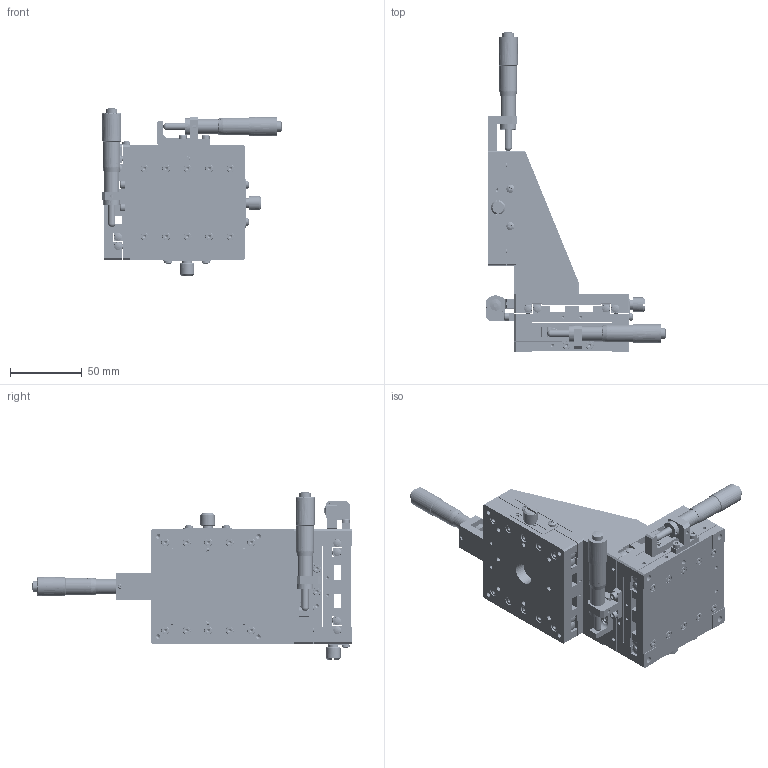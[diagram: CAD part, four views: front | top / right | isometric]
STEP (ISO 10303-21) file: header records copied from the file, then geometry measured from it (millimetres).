
FILE_DESCRIPTION (( 'STEP AP203' ), '1' );
FILE_NAME ('BVD80.STEP', '2023-12-05T00:15:38', ( 'China' ), ( 'Microsoft' ), 'SwSTEP 2.0', 'SolidWorks 2024', '' );
FILE_SCHEMA (( 'CONFIG_CONTROL_DESIGN' ));
Products named in the file (1): BVD80
Bounding box: 125.35 x 222.7 x 116.7 mm (x, y, z)
Volume: 459893.9 mm3; surface area: 224940.4 mm2
Topology: 124 solids, 124 shells, 6808 faces, 17082 edges, 10761 vertices
Faces by surface type: plane 2154, cylinder 1708, bspline 1686, cone 1032, torus 210, sphere 18
Entity records: 328868 total; most frequent: CARTESIAN_POINT 180345, ORIENTED_EDGE 33536, DIRECTION 25644, EDGE_CURVE 16768, VERTEX_POINT 10761, AXIS2_PLACEMENT_3D 9881, EDGE_LOOP 7863, FACE_OUTER_BOUND 6808
